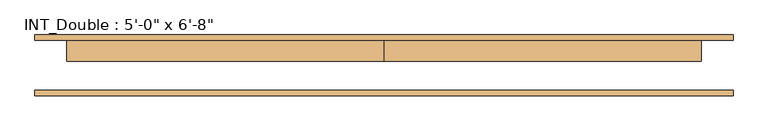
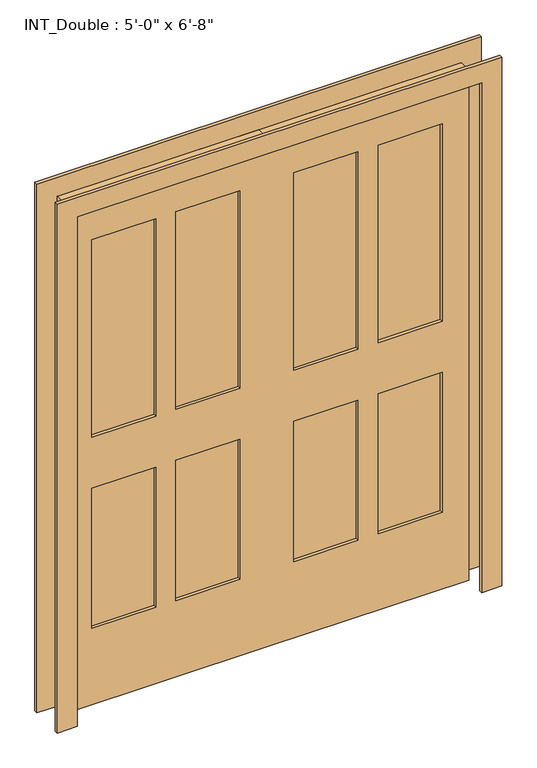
"""IFC4 building model written with IfcOpenShell, lengths in millimetres: door geometry."""

from ifc_helpers import new_model, si_unit, frame, origin, place, context, project, spatial, polyline, outline, extrude, source, transform, mapped, element, save


def door_96e5bb69(model_context):
    return source(origin(), model_context, "Body", "SweptSolid", [
        extrude(outline(polyline([(2108.2, -838.2), (0.0, -838.2), (0.0, -762.0), (2032.0, -762.0), (2032.0, 762.0), (0.0, 762.0), (0.0, 838.2), (2108.2, 838.2), (2108.2, -838.2)])), frame((0.0, 60.325, 0.0), z_axis=(0.0, 1.0, 0.0), x_axis=(0.0, 0.0, 1.0)), (0.0, 0.0, 1.0), 12.7),
        extrude(outline(polyline([(419.1, 47.625), (660.4, 47.625), (660.4, 22.225), (419.1, 22.225), (419.1, 47.625)])), frame((0.0, 0.0, 1066.8), z_axis=(0.0, 0.0, 1.0), x_axis=(1.0, 0.0, 0.0)), (0.0, 0.0, 1.0), 787.4),
        extrude(outline(polyline([(101.6, 47.625), (342.9, 47.625), (342.9, 22.225), (101.6, 22.225), (101.6, 47.625)])), frame((0.0, 0.0, 1066.8), z_axis=(0.0, 0.0, 1.0), x_axis=(1.0, 0.0, 0.0)), (0.0, 0.0, 1.0), 787.4),
        extrude(outline(polyline([(419.1, 47.625), (660.4, 47.625), (660.4, 22.225), (419.1, 22.225), (419.1, 47.625)])), frame((0.0, 0.0, 304.8), z_axis=(0.0, 0.0, 1.0), x_axis=(1.0, 0.0, 0.0)), (0.0, 0.0, 1.0), 558.8),
        extrude(outline(polyline([(101.6, 47.625), (342.9, 47.625), (342.9, 22.225), (101.6, 22.225), (101.6, 47.625)])), frame((0.0, 0.0, 304.8), z_axis=(0.0, 0.0, 1.0), x_axis=(1.0, 0.0, 0.0)), (0.0, 0.0, 1.0), 558.8),
        extrude(outline(polyline([(-342.9, 47.625), (-101.6, 47.625), (-101.6, 22.225), (-342.9, 22.225), (-342.9, 47.625)])), frame((0.0, 0.0, 1066.8), z_axis=(0.0, 0.0, 1.0), x_axis=(1.0, 0.0, 0.0)), (0.0, 0.0, 1.0), 787.4),
        extrude(outline(polyline([(-660.4, 47.625), (-419.1, 47.625), (-419.1, 22.225), (-660.4, 22.225), (-660.4, 47.625)])), frame((0.0, 0.0, 1066.8), z_axis=(0.0, 0.0, 1.0), x_axis=(1.0, 0.0, 0.0)), (0.0, 0.0, 1.0), 787.4),
        extrude(outline(polyline([(-342.9, 47.625), (-101.6, 47.625), (-101.6, 22.225), (-342.9, 22.225), (-342.9, 47.625)])), frame((0.0, 0.0, 304.8), z_axis=(0.0, 0.0, 1.0), x_axis=(1.0, 0.0, 0.0)), (0.0, 0.0, 1.0), 558.8),
        extrude(outline(polyline([(-660.4, 47.625), (-419.1, 47.625), (-419.1, 22.225), (-660.4, 22.225), (-660.4, 47.625)])), frame((0.0, 0.0, 304.8), z_axis=(0.0, 0.0, 1.0), x_axis=(1.0, 0.0, 0.0)), (0.0, 0.0, 1.0), 558.8),
        extrude(outline(polyline([(2032.0, 0.0), (2032.0, -762.0), (0.0, -762.0), (0.0, 0.0), (0.0, 762.0), (2032.0, 762.0), (2032.0, 0.0)]), holes=[polyline([(1854.2, 419.1), (1854.2, 660.4), (1066.8, 660.4), (1066.8, 419.1), (1854.2, 419.1)]), polyline([(1854.2, 101.6), (1854.2, 342.9), (1066.8, 342.9), (1066.8, 101.6), (1854.2, 101.6)]), polyline([(863.6, 419.1), (863.6, 660.4), (304.8, 660.4), (304.8, 419.1), (863.6, 419.1)]), polyline([(863.6, 101.6), (863.6, 342.9), (304.8, 342.9), (304.8, 101.6), (863.6, 101.6)]), polyline([(1066.8, -342.9), (1854.2, -342.9), (1854.2, -101.6), (1066.8, -101.6), (1066.8, -342.9)]), polyline([(1854.2, -660.4), (1854.2, -419.1), (1066.8, -419.1), (1066.8, -660.4), (1854.2, -660.4)]), polyline([(863.6, -342.9), (863.6, -101.6), (304.8, -101.6), (304.8, -342.9), (863.6, -342.9)]), polyline([(863.6, -660.4), (863.6, -419.1), (304.8, -419.1), (304.8, -660.4), (863.6, -660.4)])]), frame((0.0, 9.525, 0.0), z_axis=(0.0, 1.0, 0.0), x_axis=(0.0, 0.0, 1.0)), (0.0, 0.0, 1.0), 50.8),
        extrude(outline(polyline([(2032.0, -762.0), (2032.0, 762.0), (0.0, 762.0), (0.0, 838.2), (2108.2, 838.2), (2108.2, -838.2), (0.0, -838.2), (0.0, -762.0), (2032.0, -762.0)])), frame((0.0, -73.025, 0.0), z_axis=(0.0, 1.0, 0.0), x_axis=(0.0, 0.0, 1.0)), (0.0, 0.0, 1.0), 12.7),
    ])


if __name__ == "__main__":
    model = new_model("IFC4")
    model_context = context("Model", 3, world=origin())
    ifc_project = project(units=[si_unit("LENGTHUNIT", "METRE", prefix="MILLI")], contexts=[model_context])
    site = spatial("IfcSite", under=ifc_project)
    building = spatial("IfcBuilding", under=site)
    placement = place(None, origin())
    door_shape = door_96e5bb69(model_context)
    element("IfcDoor", 1, ObjectType="INT_Double : 5'-0\" x 6'-8\"", at=placement, inside=building, context=model_context, shape_type="MappedRepresentation", body=[
        mapped(door_shape, transform((0.0, 0.0, 0.0), x_axis=(1.0, 0.0, 0.0), y_axis=(0.0, 1.0, 0.0), z_axis=(0.0, 0.0, 1.0))),
    ])
    save(model, "model.ifc")
